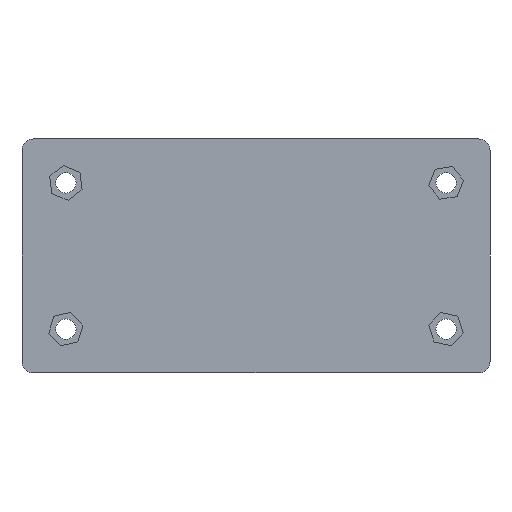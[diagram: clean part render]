
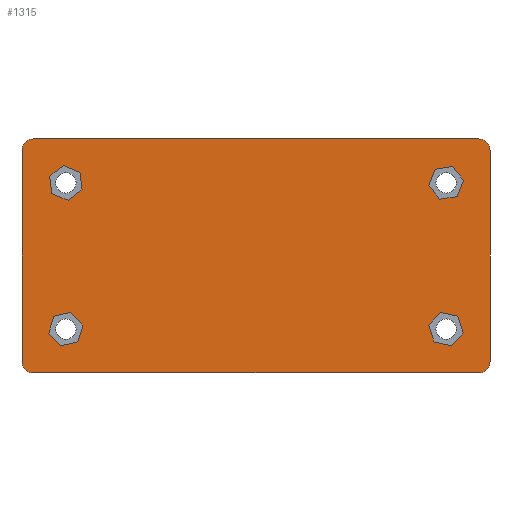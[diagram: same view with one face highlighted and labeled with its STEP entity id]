
A CAD part, front view. The second image highlights one B-rep face of the part: STEP entity #1315.
In plain terms, the highlighted planar face has unit normal (0, -1, 0).
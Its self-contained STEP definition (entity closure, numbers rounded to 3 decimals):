
#42=FACE_BOUND('',#214,.T.);
#43=FACE_BOUND('',#215,.T.);
#44=FACE_BOUND('',#216,.T.);
#45=FACE_BOUND('',#217,.T.);
#74=CIRCLE('',#1424,2.);
#75=CIRCLE('',#1427,2.);
#76=CIRCLE('',#1428,2.);
#77=CIRCLE('',#1429,2.);
#136=FACE_OUTER_BOUND('',#213,.T.);
#213=EDGE_LOOP('',(#1094,#1095,#1096,#1097,#1098,#1099,#1100,#1101));
#214=EDGE_LOOP('',(#1102,#1103,#1104,#1105,#1106,#1107));
#215=EDGE_LOOP('',(#1108,#1109,#1110,#1111,#1112,#1113));
#216=EDGE_LOOP('',(#1114,#1115,#1116,#1117,#1118,#1119));
#217=EDGE_LOOP('',(#1120,#1121,#1122,#1123,#1124,#1125));
#236=LINE('',#1822,#384);
#240=LINE('',#1830,#388);
#243=LINE('',#1836,#391);
#246=LINE('',#1842,#394);
#249=LINE('',#1848,#397);
#252=LINE('',#1853,#400);
#254=LINE('',#1861,#402);
#258=LINE('',#1869,#406);
#261=LINE('',#1875,#409);
#264=LINE('',#1881,#412);
#267=LINE('',#1887,#415);
#270=LINE('',#1892,#418);
#272=LINE('',#1900,#420);
#276=LINE('',#1908,#424);
#279=LINE('',#1914,#427);
#282=LINE('',#1920,#430);
#285=LINE('',#1926,#433);
#288=LINE('',#1931,#436);
#290=LINE('',#1939,#438);
#294=LINE('',#1947,#442);
#297=LINE('',#1953,#445);
#300=LINE('',#1959,#448);
#303=LINE('',#1965,#451);
#306=LINE('',#1970,#454);
#360=LINE('',#2129,#508);
#363=LINE('',#2135,#511);
#364=LINE('',#2139,#512);
#365=LINE('',#2143,#513);
#384=VECTOR('',#1458,10.);
#388=VECTOR('',#1464,10.);
#391=VECTOR('',#1469,10.);
#394=VECTOR('',#1474,10.);
#397=VECTOR('',#1479,10.);
#400=VECTOR('',#1484,10.);
#402=VECTOR('',#1492,10.);
#406=VECTOR('',#1498,10.);
#409=VECTOR('',#1503,10.);
#412=VECTOR('',#1508,10.);
#415=VECTOR('',#1513,10.);
#418=VECTOR('',#1518,10.);
#420=VECTOR('',#1526,10.);
#424=VECTOR('',#1532,10.);
#427=VECTOR('',#1537,10.);
#430=VECTOR('',#1542,10.);
#433=VECTOR('',#1547,10.);
#436=VECTOR('',#1552,10.);
#438=VECTOR('',#1560,10.);
#442=VECTOR('',#1566,10.);
#445=VECTOR('',#1571,10.);
#448=VECTOR('',#1576,10.);
#451=VECTOR('',#1581,10.);
#454=VECTOR('',#1586,10.);
#508=VECTOR('',#1738,10.);
#511=VECTOR('',#1743,10.);
#512=VECTOR('',#1746,10.);
#513=VECTOR('',#1749,10.);
#532=VERTEX_POINT('',#1820);
#533=VERTEX_POINT('',#1821);
#536=VERTEX_POINT('',#1829);
#538=VERTEX_POINT('',#1835);
#540=VERTEX_POINT('',#1841);
#542=VERTEX_POINT('',#1847);
#545=VERTEX_POINT('',#1859);
#546=VERTEX_POINT('',#1860);
#549=VERTEX_POINT('',#1868);
#551=VERTEX_POINT('',#1874);
#553=VERTEX_POINT('',#1880);
#555=VERTEX_POINT('',#1886);
#558=VERTEX_POINT('',#1898);
#559=VERTEX_POINT('',#1899);
#562=VERTEX_POINT('',#1907);
#564=VERTEX_POINT('',#1913);
#566=VERTEX_POINT('',#1919);
#568=VERTEX_POINT('',#1925);
#571=VERTEX_POINT('',#1937);
#572=VERTEX_POINT('',#1938);
#575=VERTEX_POINT('',#1946);
#577=VERTEX_POINT('',#1952);
#579=VERTEX_POINT('',#1958);
#581=VERTEX_POINT('',#1964);
#636=VERTEX_POINT('',#2122);
#637=VERTEX_POINT('',#2124);
#638=VERTEX_POINT('',#2128);
#640=VERTEX_POINT('',#2134);
#641=VERTEX_POINT('',#2136);
#642=VERTEX_POINT('',#2138);
#643=VERTEX_POINT('',#2140);
#644=VERTEX_POINT('',#2142);
#656=EDGE_CURVE('',#532,#533,#236,.T.);
#660=EDGE_CURVE('',#536,#532,#240,.T.);
#663=EDGE_CURVE('',#538,#536,#243,.T.);
#666=EDGE_CURVE('',#540,#538,#246,.T.);
#669=EDGE_CURVE('',#542,#540,#249,.T.);
#672=EDGE_CURVE('',#533,#542,#252,.T.);
#675=EDGE_CURVE('',#545,#546,#254,.T.);
#679=EDGE_CURVE('',#549,#545,#258,.T.);
#682=EDGE_CURVE('',#551,#549,#261,.T.);
#685=EDGE_CURVE('',#553,#551,#264,.T.);
#688=EDGE_CURVE('',#555,#553,#267,.T.);
#691=EDGE_CURVE('',#546,#555,#270,.T.);
#694=EDGE_CURVE('',#558,#559,#272,.T.);
#698=EDGE_CURVE('',#562,#558,#276,.T.);
#701=EDGE_CURVE('',#564,#562,#279,.T.);
#704=EDGE_CURVE('',#566,#564,#282,.T.);
#707=EDGE_CURVE('',#568,#566,#285,.T.);
#710=EDGE_CURVE('',#559,#568,#288,.T.);
#713=EDGE_CURVE('',#571,#572,#290,.T.);
#717=EDGE_CURVE('',#575,#571,#294,.T.);
#720=EDGE_CURVE('',#577,#575,#297,.T.);
#723=EDGE_CURVE('',#579,#577,#300,.T.);
#726=EDGE_CURVE('',#581,#579,#303,.T.);
#729=EDGE_CURVE('',#572,#581,#306,.T.);
#806=EDGE_CURVE('',#636,#637,#74,.T.);
#808=EDGE_CURVE('',#638,#637,#360,.T.);
#811=EDGE_CURVE('',#636,#640,#363,.T.);
#812=EDGE_CURVE('',#641,#640,#75,.T.);
#813=EDGE_CURVE('',#641,#642,#364,.T.);
#814=EDGE_CURVE('',#643,#642,#76,.T.);
#815=EDGE_CURVE('',#643,#644,#365,.T.);
#816=EDGE_CURVE('',#638,#644,#77,.T.);
#1094=ORIENTED_EDGE('',*,*,#806,.F.);
#1095=ORIENTED_EDGE('',*,*,#811,.T.);
#1096=ORIENTED_EDGE('',*,*,#812,.F.);
#1097=ORIENTED_EDGE('',*,*,#813,.T.);
#1098=ORIENTED_EDGE('',*,*,#814,.F.);
#1099=ORIENTED_EDGE('',*,*,#815,.T.);
#1100=ORIENTED_EDGE('',*,*,#816,.F.);
#1101=ORIENTED_EDGE('',*,*,#808,.T.);
#1102=ORIENTED_EDGE('',*,*,#656,.T.);
#1103=ORIENTED_EDGE('',*,*,#672,.T.);
#1104=ORIENTED_EDGE('',*,*,#669,.T.);
#1105=ORIENTED_EDGE('',*,*,#666,.T.);
#1106=ORIENTED_EDGE('',*,*,#663,.T.);
#1107=ORIENTED_EDGE('',*,*,#660,.T.);
#1108=ORIENTED_EDGE('',*,*,#675,.T.);
#1109=ORIENTED_EDGE('',*,*,#691,.T.);
#1110=ORIENTED_EDGE('',*,*,#688,.T.);
#1111=ORIENTED_EDGE('',*,*,#685,.T.);
#1112=ORIENTED_EDGE('',*,*,#682,.T.);
#1113=ORIENTED_EDGE('',*,*,#679,.T.);
#1114=ORIENTED_EDGE('',*,*,#694,.T.);
#1115=ORIENTED_EDGE('',*,*,#710,.T.);
#1116=ORIENTED_EDGE('',*,*,#707,.T.);
#1117=ORIENTED_EDGE('',*,*,#704,.T.);
#1118=ORIENTED_EDGE('',*,*,#701,.T.);
#1119=ORIENTED_EDGE('',*,*,#698,.T.);
#1120=ORIENTED_EDGE('',*,*,#713,.T.);
#1121=ORIENTED_EDGE('',*,*,#729,.T.);
#1122=ORIENTED_EDGE('',*,*,#726,.T.);
#1123=ORIENTED_EDGE('',*,*,#723,.T.);
#1124=ORIENTED_EDGE('',*,*,#720,.T.);
#1125=ORIENTED_EDGE('',*,*,#717,.T.);
#1254=PLANE('',#1426);
#1315=ADVANCED_FACE('',(#136,#42,#43,#44,#45),#1254,.F.);
#1424=AXIS2_PLACEMENT_3D('',#2125,#1733,#1734);
#1426=AXIS2_PLACEMENT_3D('',#2133,#1741,#1742);
#1427=AXIS2_PLACEMENT_3D('',#2137,#1744,#1745);
#1428=AXIS2_PLACEMENT_3D('',#2141,#1747,#1748);
#1429=AXIS2_PLACEMENT_3D('',#2144,#1750,#1751);
#1458=DIRECTION('',(0.123,0.,-0.992));
#1464=DIRECTION('',(0.921,0.,-0.389));
#1469=DIRECTION('',(0.798,0.,0.603));
#1474=DIRECTION('',(-0.123,0.,0.992));
#1479=DIRECTION('',(-0.921,0.,0.389));
#1484=DIRECTION('',(-0.798,0.,-0.603));
#1492=DIRECTION('',(-0.36,0.,-0.933));
#1498=DIRECTION('',(0.628,0.,-0.778));
#1503=DIRECTION('',(0.988,0.,0.155));
#1508=DIRECTION('',(0.36,0.,0.933));
#1513=DIRECTION('',(-0.628,0.,0.778));
#1518=DIRECTION('',(-0.988,0.,-0.155));
#1526=DIRECTION('',(0.973,0.,0.233));
#1532=DIRECTION('',(0.285,0.,0.959));
#1537=DIRECTION('',(-0.688,0.,0.726));
#1542=DIRECTION('',(-0.973,0.,-0.233));
#1547=DIRECTION('',(-0.285,0.,-0.959));
#1552=DIRECTION('',(0.688,0.,-0.726));
#1560=DIRECTION('',(-0.674,0.,-0.739));
#1566=DIRECTION('',(0.303,0.,-0.953));
#1571=DIRECTION('',(0.977,0.,-0.214));
#1576=DIRECTION('',(0.674,0.,0.739));
#1581=DIRECTION('',(-0.303,0.,0.953));
#1586=DIRECTION('',(-0.977,0.,0.214));
#1733=DIRECTION('center_axis',(0.,1.,0.));
#1734=DIRECTION('ref_axis',(-0.707,0.,-0.707));
#1738=DIRECTION('',(0.,0.,-1.));
#1741=DIRECTION('center_axis',(0.,1.,0.));
#1742=DIRECTION('ref_axis',(1.,0.,0.));
#1743=DIRECTION('',(1.,0.,0.));
#1744=DIRECTION('center_axis',(0.,1.,0.));
#1745=DIRECTION('ref_axis',(0.707,0.,-0.707));
#1746=DIRECTION('',(0.,0.,1.));
#1747=DIRECTION('center_axis',(0.,1.,0.));
#1748=DIRECTION('ref_axis',(0.707,0.,0.707));
#1749=DIRECTION('',(-1.,0.,0.));
#1750=DIRECTION('center_axis',(0.,1.,0.));
#1751=DIRECTION('ref_axis',(-0.707,0.,0.707));
#1820=CARTESIAN_POINT('',(-30.107,0.,14.309));
#1821=CARTESIAN_POINT('',(-29.737,0.,11.332));
#1822=CARTESIAN_POINT('',(-29.001,0.,5.419));
#1829=CARTESIAN_POINT('',(-32.87,0.,15.477));
#1830=CARTESIAN_POINT('',(-16.151,0.,8.412));
#1835=CARTESIAN_POINT('',(-35.263,0.,13.668));
#1836=CARTESIAN_POINT('',(-27.333,0.,19.664));
#1841=CARTESIAN_POINT('',(-34.893,0.,10.691));
#1842=CARTESIAN_POINT('',(-33.972,0.,3.289));
#1847=CARTESIAN_POINT('',(-32.13,0.,9.523));
#1848=CARTESIAN_POINT('',(-16.791,0.,3.042));
#1853=CARTESIAN_POINT('',(-23.003,0.,16.424));
#1859=CARTESIAN_POINT('',(35.464,0.,12.965));
#1860=CARTESIAN_POINT('',(34.385,0.,10.166));
#1861=CARTESIAN_POINT('',(30.994,0.,1.37));
#1868=CARTESIAN_POINT('',(33.579,0.,15.299));
#1869=CARTESIAN_POINT('',(30.692,0.,18.875));
#1874=CARTESIAN_POINT('',(30.615,0.,14.834));
#1875=CARTESIAN_POINT('',(14.54,0.,12.312));
#1880=CARTESIAN_POINT('',(29.536,0.,12.035));
#1881=CARTESIAN_POINT('',(25.606,0.,1.839));
#1886=CARTESIAN_POINT('',(31.421,0.,9.701));
#1887=CARTESIAN_POINT('',(27.592,0.,14.443));
#1892=CARTESIAN_POINT('',(16.827,0.,7.411));
#1898=CARTESIAN_POINT('',(-34.563,0.,-10.322));
#1899=CARTESIAN_POINT('',(-31.646,0.,-9.624));
#1900=CARTESIAN_POINT('',(-17.049,0.,-6.132));
#1907=CARTESIAN_POINT('',(-35.418,0.,-13.198));
#1908=CARTESIAN_POINT('',(-32.18,0.,-2.3));
#1913=CARTESIAN_POINT('',(-33.354,0.,-15.376));
#1914=CARTESIAN_POINT('',(-29.303,0.,-19.651));
#1919=CARTESIAN_POINT('',(-30.437,0.,-14.678));
#1920=CARTESIAN_POINT('',(-14.381,0.,-10.836));
#1925=CARTESIAN_POINT('',(-29.582,0.,-11.802));
#1926=CARTESIAN_POINT('',(-26.772,0.,-2.342));
#1931=CARTESIAN_POINT('',(-26.563,0.,-14.988));
#1937=CARTESIAN_POINT('',(35.43,0.,-13.142));
#1938=CARTESIAN_POINT('',(33.409,0.,-15.359));
#1939=CARTESIAN_POINT('',(30.659,0.,-18.375));
#1946=CARTESIAN_POINT('',(34.521,0.,-10.283));
#1947=CARTESIAN_POINT('',(31.452,0.,-0.629));
#1952=CARTESIAN_POINT('',(31.591,0.,-9.641));
#1953=CARTESIAN_POINT('',(15.511,0.,-6.117));
#1958=CARTESIAN_POINT('',(29.57,0.,-11.858));
#1959=CARTESIAN_POINT('',(25.809,0.,-15.982));
#1964=CARTESIAN_POINT('',(30.479,0.,-14.717));
#1965=CARTESIAN_POINT('',(26.955,0.,-3.633));
#1970=CARTESIAN_POINT('',(15.864,0.,-11.514));
#2122=CARTESIAN_POINT('',(-38.,0.,-20.));
#2124=CARTESIAN_POINT('',(-40.,0.,-18.));
#2125=CARTESIAN_POINT('Origin',(-38.,0.,-18.));
#2128=CARTESIAN_POINT('',(-40.,0.,18.));
#2129=CARTESIAN_POINT('',(-40.,0.,20.));
#2133=CARTESIAN_POINT('Origin',(0.,0.,0.));
#2134=CARTESIAN_POINT('',(38.,0.,-20.));
#2135=CARTESIAN_POINT('',(-40.,0.,-20.));
#2136=CARTESIAN_POINT('',(40.,0.,-18.));
#2137=CARTESIAN_POINT('Origin',(38.,0.,-18.));
#2138=CARTESIAN_POINT('',(40.,0.,18.));
#2139=CARTESIAN_POINT('',(40.,0.,-20.));
#2140=CARTESIAN_POINT('',(38.,0.,20.));
#2141=CARTESIAN_POINT('Origin',(38.,0.,18.));
#2142=CARTESIAN_POINT('',(-38.,0.,20.));
#2143=CARTESIAN_POINT('',(40.,0.,20.));
#2144=CARTESIAN_POINT('Origin',(-38.,0.,18.));
